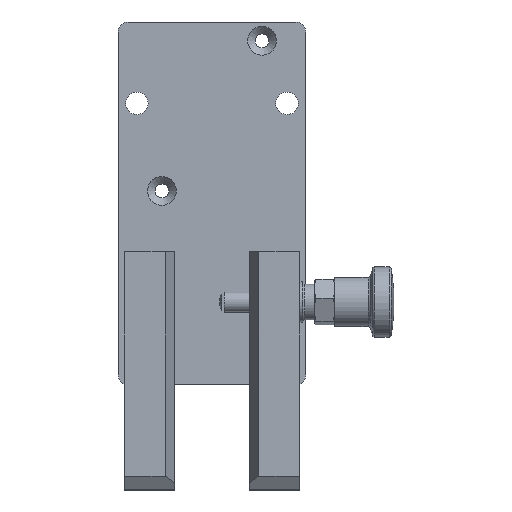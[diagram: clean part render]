
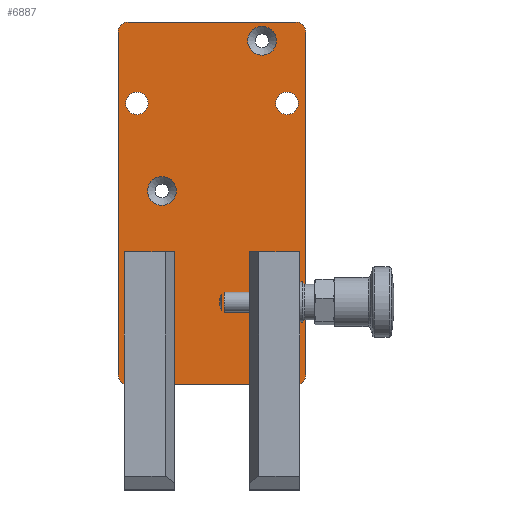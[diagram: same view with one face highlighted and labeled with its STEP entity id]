
A CAD part, top view. The second image highlights one B-rep face of the part: STEP entity #6887.
In plain terms, the highlighted planar face has unit normal (0, 0, 1).
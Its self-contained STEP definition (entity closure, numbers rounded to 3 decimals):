
#511=FACE_BOUND('',#1328,.T.);
#512=FACE_BOUND('',#1329,.T.);
#513=FACE_BOUND('',#1330,.T.);
#514=FACE_BOUND('',#1331,.T.);
#615=PLANE('',#7324);
#929=FACE_OUTER_BOUND('',#1327,.T.);
#1327=EDGE_LOOP('',(#5335,#5336,#5337,#5338,#5339,#5340,#5341,#5342,#5343,
#5344,#5345,#5346,#5347,#5348));
#1328=EDGE_LOOP('',(#5349,#5350));
#1329=EDGE_LOOP('',(#5351,#5352));
#1330=EDGE_LOOP('',(#5353,#5354));
#1331=EDGE_LOOP('',(#5355,#5356));
#1733=LINE('',#10518,#2239);
#1748=LINE('',#10556,#2254);
#1750=LINE('',#10559,#2256);
#1760=LINE('',#10620,#2266);
#1767=LINE('',#10649,#2273);
#1770=LINE('',#10657,#2276);
#1778=LINE('',#10699,#2284);
#1779=LINE('',#10702,#2285);
#1780=LINE('',#10704,#2286);
#1781=LINE('',#10705,#2287);
#2239=VECTOR('',#7983,10.);
#2254=VECTOR('',#8022,10.);
#2256=VECTOR('',#8026,10.);
#2266=VECTOR('',#8090,10.);
#2273=VECTOR('',#8119,10.);
#2276=VECTOR('',#8128,10.);
#2284=VECTOR('',#8178,10.);
#2285=VECTOR('',#8181,10.);
#2286=VECTOR('',#8182,10.);
#2287=VECTOR('',#8183,10.);
#2626=CIRCLE('',#7286,4.);
#2635=CIRCLE('',#7298,4.);
#2636=CIRCLE('',#7301,4.);
#2637=CIRCLE('',#7304,4.);
#2638=CIRCLE('',#7306,5.75);
#2639=CIRCLE('',#7307,5.75);
#2642=CIRCLE('',#7312,5.75);
#2643=CIRCLE('',#7313,5.75);
#2646=CIRCLE('',#7318,4.5);
#2647=CIRCLE('',#7319,4.5);
#2648=CIRCLE('',#7321,4.5);
#2649=CIRCLE('',#7322,4.5);
#2976=VERTEX_POINT('',#10515);
#2977=VERTEX_POINT('',#10517);
#2987=VERTEX_POINT('',#10553);
#2988=VERTEX_POINT('',#10555);
#3007=VERTEX_POINT('',#10606);
#3008=VERTEX_POINT('',#10608);
#3012=VERTEX_POINT('',#10619);
#3022=VERTEX_POINT('',#10643);
#3023=VERTEX_POINT('',#10647);
#3024=VERTEX_POINT('',#10651);
#3025=VERTEX_POINT('',#10652);
#3026=VERTEX_POINT('',#10659);
#3027=VERTEX_POINT('',#10663);
#3028=VERTEX_POINT('',#10664);
#3031=VERTEX_POINT('',#10675);
#3032=VERTEX_POINT('',#10676);
#3035=VERTEX_POINT('',#10687);
#3036=VERTEX_POINT('',#10688);
#3037=VERTEX_POINT('',#10693);
#3038=VERTEX_POINT('',#10694);
#3039=VERTEX_POINT('',#10701);
#3040=VERTEX_POINT('',#10703);
#3778=EDGE_CURVE('',#2977,#2976,#1733,.T.);
#3795=EDGE_CURVE('',#2988,#2987,#1748,.T.);
#3797=EDGE_CURVE('',#2987,#2977,#1750,.T.);
#3821=EDGE_CURVE('',#3007,#3008,#2626,.T.);
#3827=EDGE_CURVE('',#3012,#2988,#1760,.T.);
#3839=EDGE_CURVE('',#3022,#2976,#2635,.T.);
#3842=EDGE_CURVE('',#3022,#3023,#1767,.T.);
#3843=EDGE_CURVE('',#3024,#3025,#2636,.T.);
#3846=EDGE_CURVE('',#3024,#3008,#1770,.T.);
#3847=EDGE_CURVE('',#3026,#3023,#2637,.T.);
#3849=EDGE_CURVE('',#3027,#3028,#2638,.T.);
#3850=EDGE_CURVE('',#3028,#3027,#2639,.T.);
#3855=EDGE_CURVE('',#3031,#3032,#2642,.T.);
#3856=EDGE_CURVE('',#3032,#3031,#2643,.T.);
#3861=EDGE_CURVE('',#3035,#3036,#2646,.T.);
#3862=EDGE_CURVE('',#3036,#3035,#2647,.T.);
#3864=EDGE_CURVE('',#3037,#3038,#2648,.T.);
#3865=EDGE_CURVE('',#3038,#3037,#2649,.T.);
#3867=EDGE_CURVE('',#3026,#3025,#1778,.T.);
#3868=EDGE_CURVE('',#3039,#3012,#1779,.T.);
#3869=EDGE_CURVE('',#3007,#3040,#1780,.T.);
#3870=EDGE_CURVE('',#3040,#3039,#1781,.T.);
#5335=ORIENTED_EDGE('',*,*,#3868,.T.);
#5336=ORIENTED_EDGE('',*,*,#3827,.T.);
#5337=ORIENTED_EDGE('',*,*,#3795,.T.);
#5338=ORIENTED_EDGE('',*,*,#3797,.T.);
#5339=ORIENTED_EDGE('',*,*,#3778,.T.);
#5340=ORIENTED_EDGE('',*,*,#3839,.F.);
#5341=ORIENTED_EDGE('',*,*,#3842,.T.);
#5342=ORIENTED_EDGE('',*,*,#3847,.F.);
#5343=ORIENTED_EDGE('',*,*,#3867,.T.);
#5344=ORIENTED_EDGE('',*,*,#3843,.F.);
#5345=ORIENTED_EDGE('',*,*,#3846,.T.);
#5346=ORIENTED_EDGE('',*,*,#3821,.F.);
#5347=ORIENTED_EDGE('',*,*,#3869,.T.);
#5348=ORIENTED_EDGE('',*,*,#3870,.T.);
#5349=ORIENTED_EDGE('',*,*,#3849,.T.);
#5350=ORIENTED_EDGE('',*,*,#3850,.T.);
#5351=ORIENTED_EDGE('',*,*,#3855,.T.);
#5352=ORIENTED_EDGE('',*,*,#3856,.T.);
#5353=ORIENTED_EDGE('',*,*,#3861,.T.);
#5354=ORIENTED_EDGE('',*,*,#3862,.T.);
#5355=ORIENTED_EDGE('',*,*,#3864,.T.);
#5356=ORIENTED_EDGE('',*,*,#3865,.T.);
#6887=ADVANCED_FACE('',(#929,#511,#512,#513,#514),#615,.T.);
#7286=AXIS2_PLACEMENT_3D('',#10609,#8080,#8081);
#7298=AXIS2_PLACEMENT_3D('',#10644,#8113,#8114);
#7301=AXIS2_PLACEMENT_3D('',#10653,#8122,#8123);
#7304=AXIS2_PLACEMENT_3D('',#10660,#8131,#8132);
#7306=AXIS2_PLACEMENT_3D('',#10665,#8136,#8137);
#7307=AXIS2_PLACEMENT_3D('',#10666,#8138,#8139);
#7312=AXIS2_PLACEMENT_3D('',#10677,#8150,#8151);
#7313=AXIS2_PLACEMENT_3D('',#10678,#8152,#8153);
#7318=AXIS2_PLACEMENT_3D('',#10689,#8164,#8165);
#7319=AXIS2_PLACEMENT_3D('',#10690,#8166,#8167);
#7321=AXIS2_PLACEMENT_3D('',#10695,#8171,#8172);
#7322=AXIS2_PLACEMENT_3D('',#10696,#8173,#8174);
#7324=AXIS2_PLACEMENT_3D('',#10700,#8179,#8180);
#7983=DIRECTION('',(0.,-1.,0.));
#8022=DIRECTION('',(0.,1.,0.));
#8026=DIRECTION('',(1.,0.,0.));
#8080=DIRECTION('center_axis',(0.,0.,-1.));
#8081=DIRECTION('ref_axis',(-0.707,-0.707,0.));
#8090=DIRECTION('',(1.,0.,0.));
#8113=DIRECTION('center_axis',(0.,0.,-1.));
#8114=DIRECTION('ref_axis',(0.707,-0.707,0.));
#8119=DIRECTION('',(0.,1.,0.));
#8122=DIRECTION('center_axis',(0.,0.,-1.));
#8123=DIRECTION('ref_axis',(-0.707,0.707,0.));
#8128=DIRECTION('',(0.,-1.,0.));
#8131=DIRECTION('center_axis',(0.,0.,-1.));
#8132=DIRECTION('ref_axis',(0.707,0.707,0.));
#8136=DIRECTION('center_axis',(0.,0.,-1.));
#8137=DIRECTION('ref_axis',(1.,0.,0.));
#8138=DIRECTION('center_axis',(0.,0.,-1.));
#8139=DIRECTION('ref_axis',(1.,0.,0.));
#8150=DIRECTION('center_axis',(0.,0.,-1.));
#8151=DIRECTION('ref_axis',(1.,0.,0.));
#8152=DIRECTION('center_axis',(0.,0.,-1.));
#8153=DIRECTION('ref_axis',(1.,0.,0.));
#8164=DIRECTION('center_axis',(0.,0.,-1.));
#8165=DIRECTION('ref_axis',(1.,0.,0.));
#8166=DIRECTION('center_axis',(0.,0.,-1.));
#8167=DIRECTION('ref_axis',(1.,0.,0.));
#8171=DIRECTION('center_axis',(0.,0.,-1.));
#8172=DIRECTION('ref_axis',(1.,0.,0.));
#8173=DIRECTION('center_axis',(0.,0.,-1.));
#8174=DIRECTION('ref_axis',(1.,0.,0.));
#8178=DIRECTION('',(-1.,0.,0.));
#8179=DIRECTION('center_axis',(0.,0.,1.));
#8180=DIRECTION('ref_axis',(1.,0.,0.));
#8181=DIRECTION('',(0.,-1.,0.));
#8182=DIRECTION('',(0.,1.,0.));
#8183=DIRECTION('',(1.,0.,0.));
#10515=CARTESIAN_POINT('',(35.,-72.208,6.));
#10517=CARTESIAN_POINT('',(35.,-19.5,6.));
#10518=CARTESIAN_POINT('',(35.,-57.25,6.));
#10553=CARTESIAN_POINT('',(15.,-19.5,6.));
#10555=CARTESIAN_POINT('',(15.,-72.5,6.));
#10556=CARTESIAN_POINT('',(15.,-9.75,6.));
#10559=CARTESIAN_POINT('',(17.5,-19.5,6.));
#10606=CARTESIAN_POINT('',(-35.,-72.208,6.));
#10608=CARTESIAN_POINT('',(-37.5,-68.5,6.));
#10609=CARTESIAN_POINT('Origin',(-33.5,-68.5,6.));
#10619=CARTESIAN_POINT('',(-15.,-72.5,6.));
#10620=CARTESIAN_POINT('',(-37.5,-72.5,6.));
#10643=CARTESIAN_POINT('',(37.5,-68.5,6.));
#10644=CARTESIAN_POINT('Origin',(33.5,-68.5,6.));
#10647=CARTESIAN_POINT('',(37.5,68.5,6.));
#10649=CARTESIAN_POINT('',(37.5,-72.5,6.));
#10651=CARTESIAN_POINT('',(-37.5,68.5,6.));
#10652=CARTESIAN_POINT('',(-33.5,72.5,6.));
#10653=CARTESIAN_POINT('Origin',(-33.5,68.5,6.));
#10657=CARTESIAN_POINT('',(-37.5,72.5,6.));
#10659=CARTESIAN_POINT('',(33.5,72.5,6.));
#10660=CARTESIAN_POINT('Origin',(33.5,68.5,6.));
#10663=CARTESIAN_POINT('',(25.75,65.,6.));
#10664=CARTESIAN_POINT('',(14.25,65.,6.));
#10665=CARTESIAN_POINT('Origin',(20.,65.,6.));
#10666=CARTESIAN_POINT('Origin',(20.,65.,6.));
#10675=CARTESIAN_POINT('',(-14.25,5.,6.));
#10676=CARTESIAN_POINT('',(-25.75,5.,6.));
#10677=CARTESIAN_POINT('Origin',(-20.,5.,6.));
#10678=CARTESIAN_POINT('Origin',(-20.,5.,6.));
#10687=CARTESIAN_POINT('',(-25.5,40.,6.));
#10688=CARTESIAN_POINT('',(-34.5,40.,6.));
#10689=CARTESIAN_POINT('Origin',(-30.,40.,6.));
#10690=CARTESIAN_POINT('Origin',(-30.,40.,6.));
#10693=CARTESIAN_POINT('',(34.5,40.,6.));
#10694=CARTESIAN_POINT('',(25.5,40.,6.));
#10695=CARTESIAN_POINT('Origin',(30.,40.,6.));
#10696=CARTESIAN_POINT('Origin',(30.,40.,6.));
#10699=CARTESIAN_POINT('',(37.5,72.5,6.));
#10700=CARTESIAN_POINT('Origin',(0.,0.,6.));
#10701=CARTESIAN_POINT('',(-15.,-19.5,6.));
#10702=CARTESIAN_POINT('',(-15.,-57.25,6.));
#10703=CARTESIAN_POINT('',(-35.,-19.5,6.));
#10704=CARTESIAN_POINT('',(-35.,-9.75,6.));
#10705=CARTESIAN_POINT('',(-7.5,-19.5,6.));
